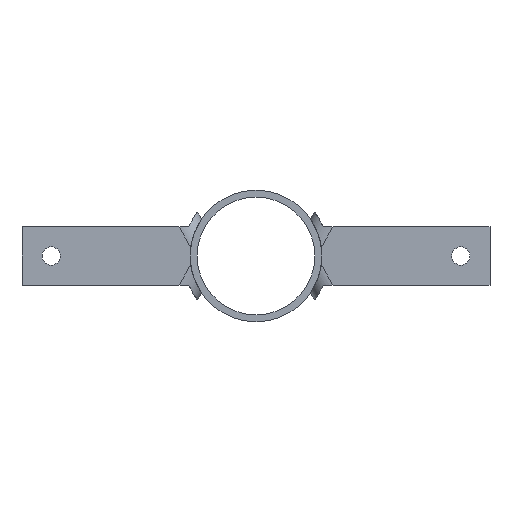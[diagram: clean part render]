
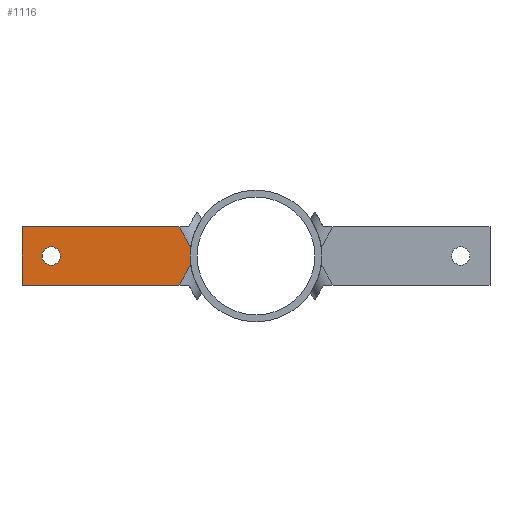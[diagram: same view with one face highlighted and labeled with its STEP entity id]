
A CAD part, front view. The second image highlights one B-rep face of the part: STEP entity #1116.
In plain terms, the highlighted planar face has unit normal (0, -1, 0).
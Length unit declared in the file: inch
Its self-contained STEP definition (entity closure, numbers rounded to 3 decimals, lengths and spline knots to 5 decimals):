
#45=FACE_BOUND('',#189,.T.);
#58=CIRCLE('',#1197,2.25);
#59=CIRCLE('',#1198,2.25);
#60=CIRCLE('',#1199,0.3125);
#96=PLANE('',#1196);
#132=FACE_OUTER_BOUND('',#188,.T.);
#188=EDGE_LOOP('',(#748,#749,#750,#751,#752,#753,#754));
#189=EDGE_LOOP('',(#755));
#276=LINE('',#1686,#369);
#280=LINE('',#1721,#373);
#281=LINE('',#1728,#374);
#282=LINE('',#1730,#375);
#283=LINE('',#1731,#376);
#369=VECTOR('',#1328,0.3937);
#373=VECTOR('',#1334,0.3937);
#374=VECTOR('',#1341,0.3937);
#375=VECTOR('',#1342,0.3937);
#376=VECTOR('',#1343,0.3937);
#474=VERTEX_POINT('',#1683);
#475=VERTEX_POINT('',#1685);
#479=VERTEX_POINT('',#1706);
#480=VERTEX_POINT('',#1723);
#481=VERTEX_POINT('',#1725);
#482=VERTEX_POINT('',#1727);
#483=VERTEX_POINT('',#1729);
#484=VERTEX_POINT('',#1732);
#582=EDGE_CURVE('',#475,#474,#276,.T.);
#588=EDGE_CURVE('',#479,#474,#280,.T.);
#589=EDGE_CURVE('',#480,#479,#58,.T.);
#590=EDGE_CURVE('',#481,#480,#59,.T.);
#591=EDGE_CURVE('',#482,#481,#281,.T.);
#592=EDGE_CURVE('',#482,#483,#282,.T.);
#593=EDGE_CURVE('',#483,#475,#283,.T.);
#594=EDGE_CURVE('',#484,#484,#60,.T.);
#748=ORIENTED_EDGE('',*,*,#588,.F.);
#749=ORIENTED_EDGE('',*,*,#589,.F.);
#750=ORIENTED_EDGE('',*,*,#590,.F.);
#751=ORIENTED_EDGE('',*,*,#591,.F.);
#752=ORIENTED_EDGE('',*,*,#592,.T.);
#753=ORIENTED_EDGE('',*,*,#593,.T.);
#754=ORIENTED_EDGE('',*,*,#582,.T.);
#755=ORIENTED_EDGE('',*,*,#594,.T.);
#1116=ADVANCED_FACE('',(#132,#45),#96,.F.);
#1196=AXIS2_PLACEMENT_3D('',#1722,#1335,#1336);
#1197=AXIS2_PLACEMENT_3D('',#1724,#1337,#1338);
#1198=AXIS2_PLACEMENT_3D('',#1726,#1339,#1340);
#1199=AXIS2_PLACEMENT_3D('',#1733,#1344,#1345);
#1328=DIRECTION('',(1.,0.,0.));
#1334=DIRECTION('',(-0.5,0.,-0.866));
#1335=DIRECTION('center_axis',(0.,1.,0.));
#1336=DIRECTION('ref_axis',(0.,0.,1.));
#1337=DIRECTION('center_axis',(0.,-1.,0.));
#1338=DIRECTION('ref_axis',(1.,0.,0.));
#1339=DIRECTION('center_axis',(0.,-1.,0.));
#1340=DIRECTION('ref_axis',(1.,0.,0.));
#1341=DIRECTION('',(0.5,0.,-0.866));
#1342=DIRECTION('',(-1.,0.,0.));
#1343=DIRECTION('',(0.,0.,-1.));
#1344=DIRECTION('center_axis',(0.,1.,0.));
#1345=DIRECTION('ref_axis',(-1.,0.,0.));
#1683=CARTESIAN_POINT('',(-2.63509,4.,-1.));
#1685=CARTESIAN_POINT('',(-8.,4.,-1.));
#1686=CARTESIAN_POINT('',(-8.,4.,-1.));
#1706=CARTESIAN_POINT('',(-2.2301,4.,-0.29855));
#1721=CARTESIAN_POINT('',(-1.92862,4.,0.22364));
#1722=CARTESIAN_POINT('Origin',(0.,4.,0.875));
#1723=CARTESIAN_POINT('',(-2.25,4.,0.));
#1724=CARTESIAN_POINT('Origin',(0.,4.,0.));
#1725=CARTESIAN_POINT('',(-2.2301,4.,0.29855));
#1726=CARTESIAN_POINT('Origin',(0.,4.,0.));
#1727=CARTESIAN_POINT('',(-2.63509,4.,1.));
#1728=CARTESIAN_POINT('',(-2.23884,4.,0.31368));
#1729=CARTESIAN_POINT('',(-8.,4.,1.));
#1730=CARTESIAN_POINT('',(8.,4.,1.));
#1731=CARTESIAN_POINT('',(-8.,4.,1.));
#1732=CARTESIAN_POINT('',(-6.6875,4.,0.));
#1733=CARTESIAN_POINT('Origin',(-7.,4.,0.));
